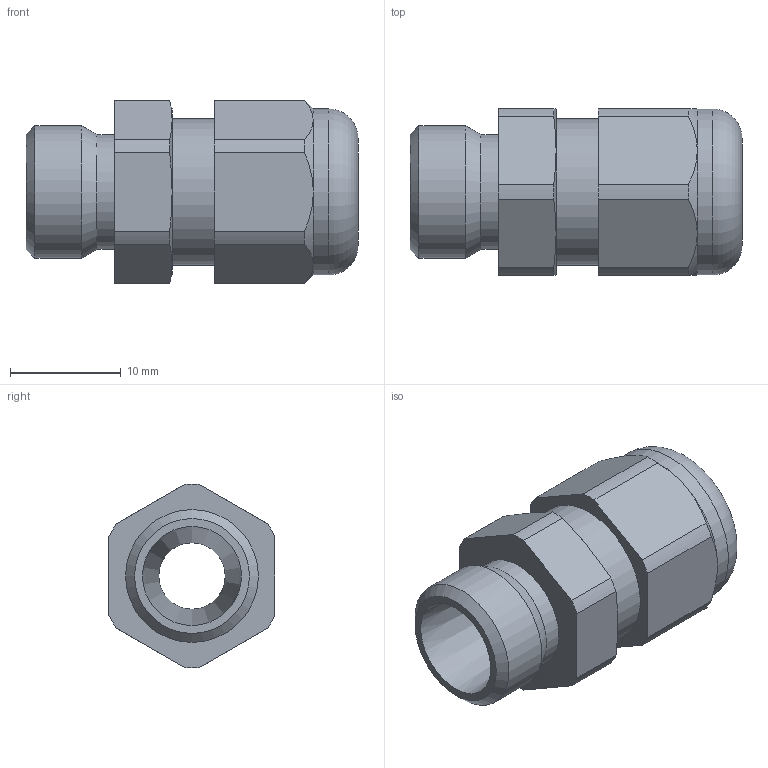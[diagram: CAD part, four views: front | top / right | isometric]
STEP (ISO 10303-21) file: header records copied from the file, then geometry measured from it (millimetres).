
FILE_DESCRIPTION( ( 'STEP AP214' ), '1' );
FILE_NAME( 'p:/temp/worker_8/temp/exporttempdir_1212_315_EMrB6/format_0/SKINTOP ST-M 12x1,5 Art. Nr. 53111400(F=6).stp', '2021-05-15T11:08:12', ( 'License CC BY-ND 4.0' ), ( 'CADENAS' ), ' ', 'PARTsolutions', ' ' );
FILE_SCHEMA( ( 'AUTOMOTIVE_DESIGN { 1 0 10303 214 1 1 1 1 }' ) );
Length unit declared in the file: millimetre
Products named in the file (1): _SKINTOP ST-M 12x1,5      Art. Nr. 53111400(F=6)
Bounding box: 30 x 15 x 16.59 mm (x, y, z)
Volume: 3538.7 mm3; surface area: 2376.2 mm2
Topology: 1 solids, 1 shells, 76 faces, 190 edges, 121 vertices
Faces by surface type: plane 33, cylinder 27, cone 15, torus 1
Full cylindrical faces by diameter (mm): 6 x1, 10.38 x1, 12 x1, 13.2 x1, 15 x1
Entity records: 2900 total; most frequent: CARTESIAN_POINT 485, DIRECTION 378, ORIENTED_EDGE 360, EDGE_CURVE 180, AXIS2_PLACEMENT_3D 145, VERTEX_POINT 120, EDGE_LOOP 92, LINE 88
